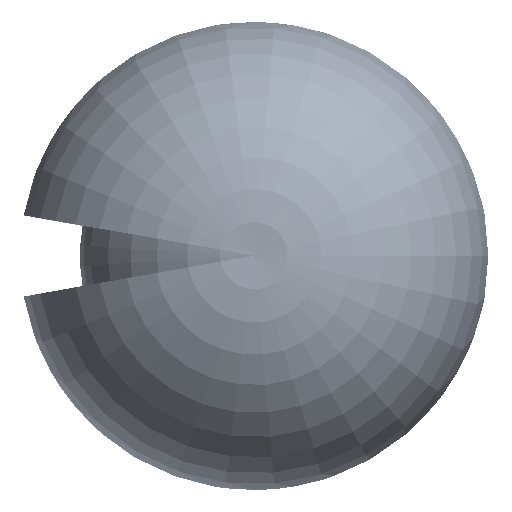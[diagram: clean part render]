
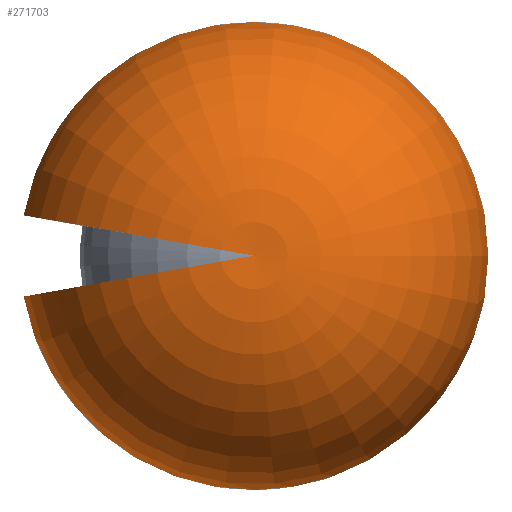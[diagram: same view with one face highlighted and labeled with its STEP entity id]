
A CAD part, top view. The second image highlights one B-rep face of the part: STEP entity #271703.
In plain terms, the highlighted toroidal (fillet/blend) face has major radius 350 mm and minor radius 2830.01 mm.
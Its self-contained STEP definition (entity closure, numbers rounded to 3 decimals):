
#605 = CARTESIAN_POINT ( 'NONE',  ( 0., 0., 780. ) ) ;
#15393 = ORIENTED_EDGE ( 'NONE', *, *, #257388, .F. ) ;
#29929 = CARTESIAN_POINT ( 'NONE',  ( -3121.093, -550.333, 1026.652 ) ) ;
#32826 = CARTESIAN_POINT ( 'NONE',  ( -344.683, -60.777, 780. ) ) ;
#37498 = VERTEX_POINT ( 'NONE', #29929 ) ;
#65617 = TOROIDAL_SURFACE ( 'NONE', #296485, 350., 2830.01 ) ;
#87012 = DIRECTION ( 'NONE',  ( 0., 1., 0. ) ) ;
#88210 = ORIENTED_EDGE ( 'NONE', *, *, #183312, .T. ) ;
#91671 = AXIS2_PLACEMENT_3D ( 'NONE', #366416, #396567, #121224 ) ;
#96548 = CARTESIAN_POINT ( 'NONE',  ( 0., 0., 1026.652 ) ) ;
#121224 = DIRECTION ( 'NONE',  ( 0.985, -0.174, 0. ) ) ;
#128543 = DIRECTION ( 'NONE',  ( 0., 0., -1. ) ) ;
#155151 = DIRECTION ( 'NONE',  ( 0., 0., -1. ) ) ;
#155279 = DIRECTION ( 'NONE',  ( -0.174, 0.985, 0. ) ) ;
#182770 = EDGE_CURVE ( 'NONE', #37498, #333971, #283647, .T. ) ;
#183312 = EDGE_CURVE ( 'NONE', #319942, #333971, #341742, .T. ) ;
#200046 = AXIS2_PLACEMENT_3D ( 'NONE', #32826, #155279, #364282 ) ;
#214514 = AXIS2_PLACEMENT_3D ( 'NONE', #96548, #128543, #219161 ) ;
#219161 = DIRECTION ( 'NONE',  ( 0., 1., 0. ) ) ;
#257388 = EDGE_CURVE ( 'NONE', #319942, #37498, #355925, .T. ) ;
#270401 = CARTESIAN_POINT ( 'NONE',  ( -3121.093, 550.333, 1026.652 ) ) ;
#271703 = ADVANCED_FACE ( 'NONE', ( #366167 ), #65617, .T. ) ;
#283647 = CIRCLE ( 'NONE', #200046, 2830.01 ) ;
#296485 = AXIS2_PLACEMENT_3D ( 'NONE', #605, #155151, #87012 ) ;
#319942 = VERTEX_POINT ( 'NONE', #270401 ) ;
#328804 = EDGE_LOOP ( 'NONE', ( #336155, #15393, #88210 ) ) ;
#333971 = VERTEX_POINT ( 'NONE', #378366 ) ;
#336155 = ORIENTED_EDGE ( 'NONE', *, *, #182770, .F. ) ;
#341742 = CIRCLE ( 'NONE', #91671, 2830.01 ) ;
#355925 = CIRCLE ( 'NONE', #214514, 3169.241 ) ;
#364282 = DIRECTION ( 'NONE',  ( 0.985, 0.174, 0. ) ) ;
#366167 = FACE_OUTER_BOUND ( 'NONE', #328804, .T. ) ;
#366416 = CARTESIAN_POINT ( 'NONE',  ( -344.683, 60.777, 780. ) ) ;
#378366 = CARTESIAN_POINT ( 'NONE',  ( 0., 0., 3588.283 ) ) ;
#396567 = DIRECTION ( 'NONE',  ( 0.174, 0.985, 0. ) ) ;
